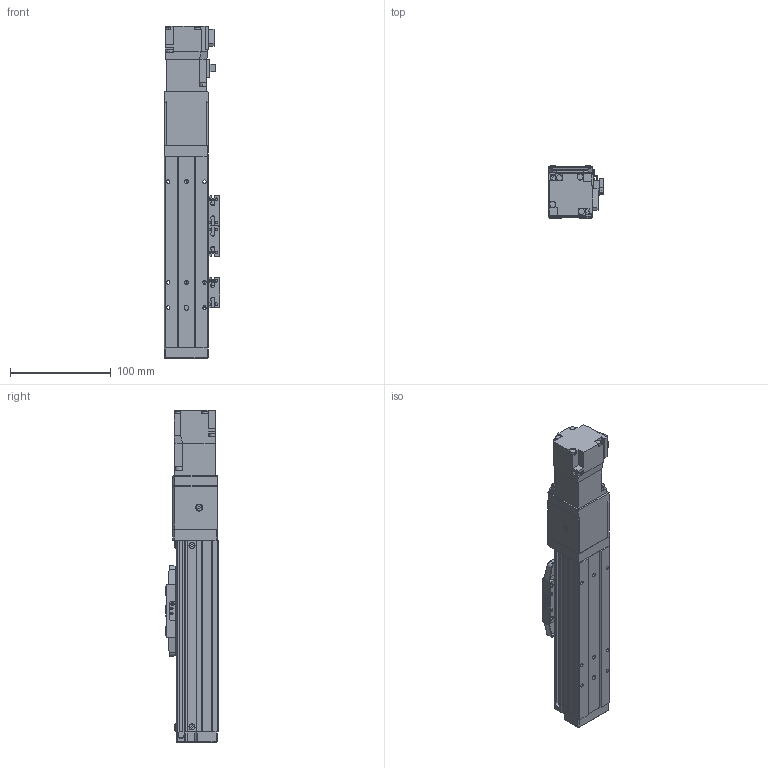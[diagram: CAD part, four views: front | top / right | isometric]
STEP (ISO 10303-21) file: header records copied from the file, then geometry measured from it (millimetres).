
FILE_DESCRIPTION (( 'STEP AP203' ), '1' );
FILE_NAME ('BTH40-50-BC-M05-C4.step', '2021-12-16T00:12:09', ( '微软用户' ), ( '微软中国' ), 'SwSTEP 2.0', 'SolidWorks 2020', '' );
FILE_SCHEMA (( 'CONFIG_CONTROL_DESIGN' ));
Length unit declared in the file: millimetre
Products named in the file (19): BTH50-024; HG-KR13; BTH40-003; GBT 70.1-M3℅6; GBT 70.3-M3℅6; BTH40-006; GBT96.1-2002 3×0.8; BTH40-017; BTH-M3X5X6; BTH40-022; BTH40-005-1; GBT70.1-2000 M3×16; GBT 70.1-M2.5×6; BTH40-50-BC-M05-C4; BTH50-028; BTH40-004; BTH50-023; BTH40-013; BTH40-001-50_BTH40-001-50
Assembly tree (49 placements, depth 2):
  BTH40-50-BC-M05-C4
    BTH40-001-50_BTH40-001-50
    BTH40-003
    BTH40-006
    BTH-M3X5X6  x10
    GBT70.1-2000 M3×16  x4
    BTH50-028  x2
    BTH50-023  x3
    BTH50-024  x3
    GBT 70.1-M3℅6  x6
    GBT96.1-2002 3×0.8  x6
    BTH40-022
    GBT 70.1-M2.5×6  x2
    BTH40-004
    BTH40-013
    HG-KR13
    GBT 70.3-M3℅6  x4
    BTH40-017
    BTH40-005-1
Bounding box: 55.2 x 52 x 329.4 mm (x, y, z)
Volume: 549771.5 mm3; surface area: 136276.8 mm2
Topology: 51 solids, 51 shells, 1946 faces, 4573 edges, 2828 vertices
Faces by surface type: plane 1088, cylinder 449, cone 257, torus 132, bspline 16, sphere 4
Entity records: 37243 total; most frequent: CARTESIAN_POINT 6742, DIRECTION 5832, ORIENTED_EDGE 5608, EDGE_CURVE 2804, VECTOR 1998, LINE 1998, AXIS2_PLACEMENT_3D 1917, VERTEX_POINT 1759
